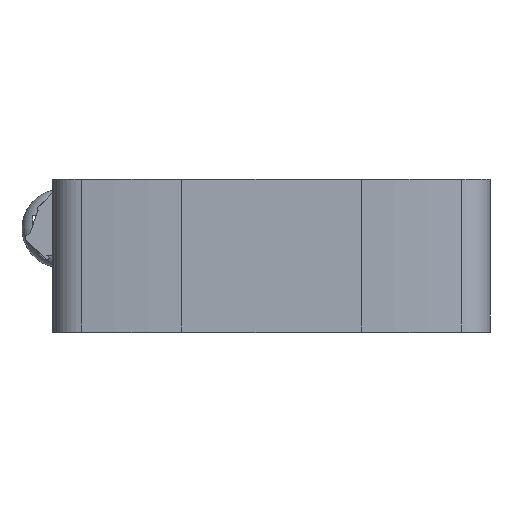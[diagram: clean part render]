
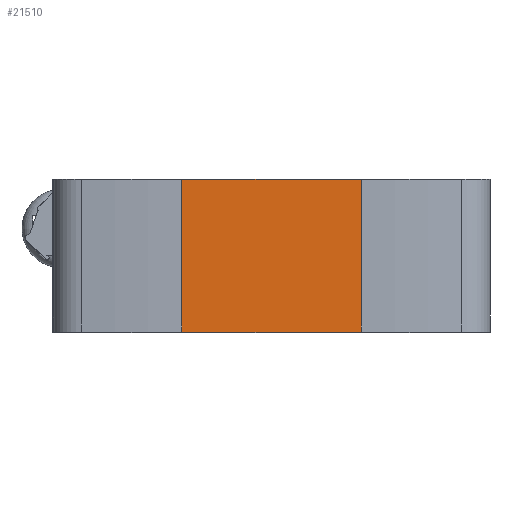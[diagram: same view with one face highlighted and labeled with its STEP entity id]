
A CAD part, top view. The second image highlights one B-rep face of the part: STEP entity #21510.
In plain terms, the highlighted planar face has unit normal (0, 0, 1).
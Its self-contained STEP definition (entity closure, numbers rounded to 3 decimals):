
#3242=FACE_OUTER_BOUND('',#4461,.T.);
#4461=EDGE_LOOP('',(#19532,#19533,#19534,#19535));
#6302=LINE('',#34665,#8457);
#6318=LINE('',#34728,#8473);
#6539=LINE('',#35313,#8694);
#6540=LINE('',#35315,#8695);
#8457=VECTOR('',#28560,10.);
#8473=VECTOR('',#28622,10.);
#8694=VECTOR('',#29189,10.);
#8695=VECTOR('',#29192,10.);
#10471=VERTEX_POINT('',#34662);
#10472=VERTEX_POINT('',#34664);
#10495=VERTEX_POINT('',#34725);
#10496=VERTEX_POINT('',#34727);
#13221=EDGE_CURVE('',#10471,#10472,#6302,.T.);
#13253=EDGE_CURVE('',#10495,#10496,#6318,.T.);
#13566=EDGE_CURVE('',#10495,#10472,#6539,.T.);
#13567=EDGE_CURVE('',#10496,#10471,#6540,.T.);
#19532=ORIENTED_EDGE('',*,*,#13567,.F.);
#19533=ORIENTED_EDGE('',*,*,#13253,.F.);
#19534=ORIENTED_EDGE('',*,*,#13566,.T.);
#19535=ORIENTED_EDGE('',*,*,#13221,.F.);
#20402=PLANE('',#23468);
#21510=ADVANCED_FACE('',(#3242),#20402,.T.);
#23468=AXIS2_PLACEMENT_3D('',#35470,#29417,#29418);
#28560=DIRECTION('',(-1.,0.,0.));
#28622=DIRECTION('',(1.,0.,0.));
#29189=DIRECTION('',(0.,-1.,0.));
#29192=DIRECTION('',(0.,-1.,0.));
#29417=DIRECTION('center_axis',(0.,0.,1.));
#29418=DIRECTION('ref_axis',(-1.,0.,0.));
#34662=CARTESIAN_POINT('',(20.5,-25.,120.));
#34664=CARTESIAN_POINT('',(-20.5,-25.,120.));
#34665=CARTESIAN_POINT('',(-50.5,-25.,120.));
#34725=CARTESIAN_POINT('',(-20.5,10.,120.));
#34727=CARTESIAN_POINT('',(20.5,10.,120.));
#34728=CARTESIAN_POINT('',(-50.5,10.,120.));
#35313=CARTESIAN_POINT('',(-20.5,-13.,120.));
#35315=CARTESIAN_POINT('',(20.5,-13.,120.));
#35470=CARTESIAN_POINT('Origin',(50.5,10.,120.));
